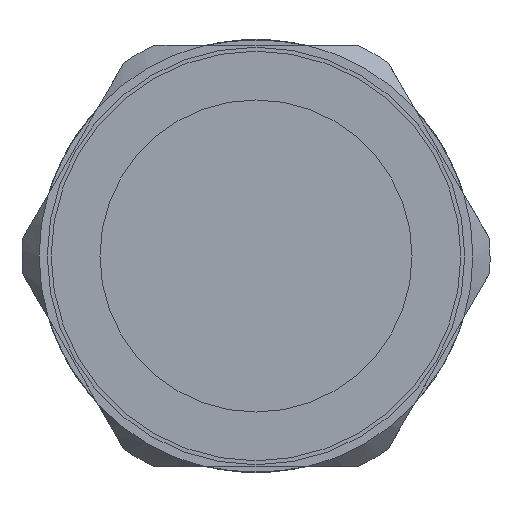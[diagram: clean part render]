
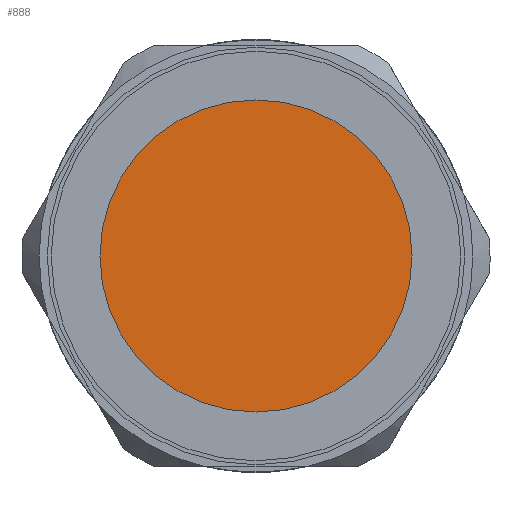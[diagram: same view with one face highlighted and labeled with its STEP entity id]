
A CAD part, left-side view. The second image highlights one B-rep face of the part: STEP entity #888.
In plain terms, the highlighted planar face has unit normal (-1, 0, 0).
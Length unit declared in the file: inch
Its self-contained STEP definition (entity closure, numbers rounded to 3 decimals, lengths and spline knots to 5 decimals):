
#60=PLANE('',#983);
#91=FACE_OUTER_BOUND('',#142,.T.);
#142=EDGE_LOOP('',(#609,#610));
#281=CIRCLE('',#981,0.31496);
#282=CIRCLE('',#982,0.31496);
#349=VERTEX_POINT('',#1403);
#350=VERTEX_POINT('',#1405);
#449=EDGE_CURVE('',#349,#350,#281,.T.);
#450=EDGE_CURVE('',#350,#349,#282,.T.);
#609=ORIENTED_EDGE('',*,*,#450,.F.);
#610=ORIENTED_EDGE('',*,*,#449,.F.);
#888=ADVANCED_FACE('',(#91),#60,.T.);
#981=AXIS2_PLACEMENT_3D('',#1406,#1143,#1144);
#982=AXIS2_PLACEMENT_3D('',#1407,#1145,#1146);
#983=AXIS2_PLACEMENT_3D('',#1408,#1147,#1148);
#1143=DIRECTION('center_axis',(1.,0.,0.));
#1144=DIRECTION('ref_axis',(0.,0.866,0.5));
#1145=DIRECTION('center_axis',(1.,0.,0.));
#1146=DIRECTION('ref_axis',(0.,0.866,0.5));
#1147=DIRECTION('center_axis',(-1.,0.,0.));
#1148=DIRECTION('ref_axis',(0.,0.866,0.5));
#1403=CARTESIAN_POINT('',(-2.01786,-0.17146,-0.50182));
#1405=CARTESIAN_POINT('',(-2.01786,0.37407,-0.18686));
#1406=CARTESIAN_POINT('Origin',(-2.01786,0.1013,-0.34434));
#1407=CARTESIAN_POINT('Origin',(-2.01786,0.1013,-0.34434));
#1408=CARTESIAN_POINT('Origin',(-2.01786,0.1013,-0.34434));
